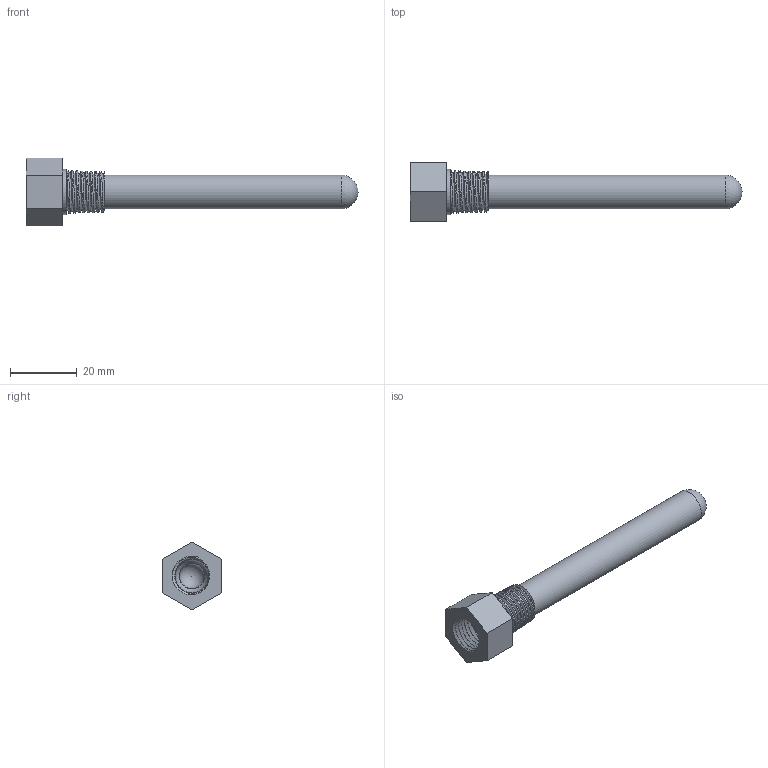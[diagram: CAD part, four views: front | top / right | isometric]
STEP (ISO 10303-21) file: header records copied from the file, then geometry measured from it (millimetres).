
FILE_DESCRIPTION(/* description */ (''),/* implementation_level */ '2;1');
FILE_NAME(/* name */ 'R:\Temp\J. Narvaez\IAN DRAWINGS\002 - Sensors\005 - MCS-WELL\14-002-1_4-3-B.stp',/* time_stamp */ '2022-11-14T09:47:02-05:00',/* author */ ('mjeter'),/* organization */ ('unknown'),/* preprocessor_version */ 'ST-DEVELOPER v19',/* originating_system */ 'Autodesk Inventor 2023',/* authorisation */ '');
FILE_SCHEMA (('AUTOMOTIVE_DESIGN { 1 0 10303 214 3 1 1 }'));
Length unit declared in the file: inch
Products named in the file (1): 14-002-1_4-3-B
Bounding box: 99.38 x 17.46 x 20.16 mm (x, y, z)
Volume: 5510.2 mm3; surface area: 6747.7 mm2
Topology: 1 solids, 1 shells, 32 faces, 85 edges, 57 vertices
Faces by surface type: plane 12, cone 10, bspline 4, cylinder 4, sphere 2
Full cylindrical faces by diameter (mm): 7.62 x1, 10.16 x1, 11.176 x1, 13.589 x1
Entity records: 5110 total; most frequent: CARTESIAN_POINT 4321, ORIENTED_EDGE 166, DIRECTION 127, EDGE_CURVE 83, VERTEX_POINT 57, AXIS2_PLACEMENT_3D 48, EDGE_LOOP 36, B_SPLINE_CURVE_WITH_KNOTS 33
